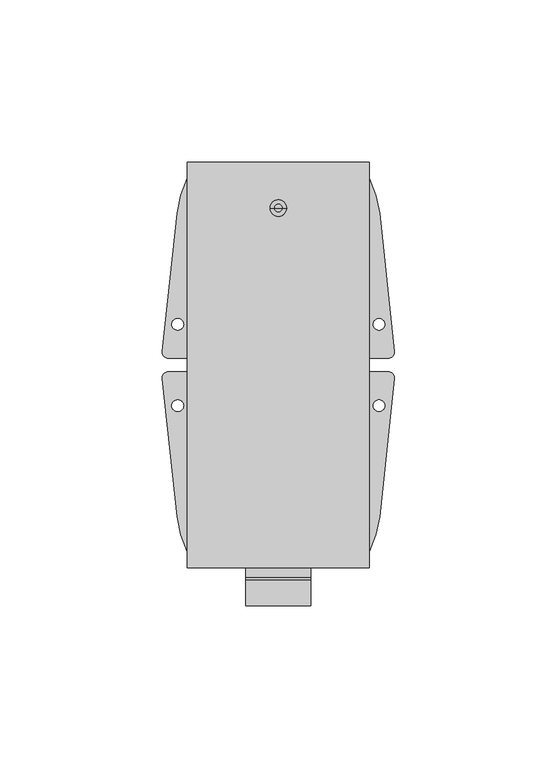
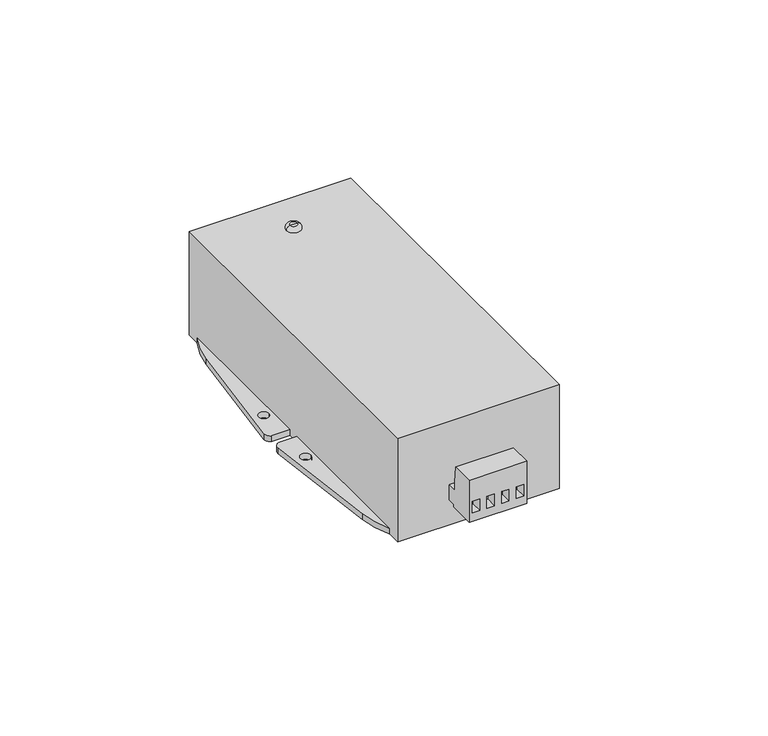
"""IFC4 building model written with IfcOpenShell, lengths in millimetres: proxy geometry, A KIT HPOE 60W-MT-20 : A KIT HPOE 60W-MT-20."""

from ifc_helpers import new_model, si_unit, point, frame, frame_2d, origin, place, context, project, spatial, polyline, circle_curve, ellipse_curve, trimmed, segment, composite_curve, outline, extrude, faceted_brep, source, transform, mapped, element, save
from ifc_brep_helpers import plane_surface, revolved_surface, advanced_brep


def electrical_equipment_0b683ebe(model_context):
    return source(origin(), model_context, "Body", "SolidModel", [
        faceted_brep([(9.9958258, -59.123132, -11.75), (9.9958258, -59.123132, -10.7582097), (9.9958258, -50.3233605, -10.7582097), (9.9958258, -50.3233605, -5.25), (9.9958258, -59.7233605, -5.25), (9.9958258, -59.7233605, -2.25), (9.9958258, -60.3214939, 3.6814903), (9.9958258, -68.3233605, 3.6814903), (9.9958258, -68.3233605, -11.75), (-10.0041742, -59.123132, -11.75), (-10.0041742, -68.3233605, -11.75), (-10.0041742, -68.3233605, 3.6814903), (-10.0041742, -60.3214939, 3.6814903), (-10.0041742, -59.7233605, -2.25), (-10.0041742, -59.7233605, -5.25), (-10.0041742, -50.3233605, -5.25), (-10.0041742, -50.3233605, -10.7582097), (-10.0041742, -59.123132, -10.7582097), (6.3458258, -68.3233605, -8.75), (6.3458258, -68.3233605, -4.45), (8.8858258, -68.3233605, -4.45), (8.8858258, -68.3233605, -8.75), (1.2658258, -68.3233605, -8.75), (1.2658258, -68.3233605, -4.45), (3.8058258, -68.3233605, -4.45), (3.8058258, -68.3233605, -8.75), (-3.8141742, -68.3233605, -8.75), (-3.8141742, -68.3233605, -4.45), (-1.2741742, -68.3233605, -4.45), (-1.2741742, -68.3233605, -8.75), (-8.8941742, -68.3233605, -8.75), (-8.8941742, -68.3233605, -4.45), (-6.3541742, -68.3233605, -4.45), (-6.3541742, -68.3233605, -8.75), (6.3458258, -64.3233605, -4.45), (6.3458258, -64.3233605, -8.75), (8.8858258, -64.3233605, -8.75), (8.8858258, -64.3233605, -4.45), (1.2658258, -64.3233605, -4.45), (1.2658258, -64.3233605, -8.75), (3.8058258, -64.3233605, -8.75), (3.8058258, -64.3233605, -4.45), (-3.8141742, -64.3233605, -4.45), (-3.8141742, -64.3233605, -8.75), (-1.2741742, -64.3233605, -8.75), (-1.2741742, -64.3233605, -4.45), (-8.8941742, -64.3233605, -4.45), (-8.8941742, -64.3233605, -8.75), (-6.3541742, -64.3233605, -8.75), (-6.3541742, -64.3233605, -4.45)], [[[0, 1, 2, 3, 4, 5, 6, 7, 8]], [[9, 10, 11, 12, 13, 14, 15, 16, 17]], [[1, 0, 9, 17]], [[2, 1, 17, 16]], [[3, 2, 16, 15]], [[4, 3, 15, 14]], [[5, 4, 14, 13]], [[6, 5, 13, 12]], [[7, 6, 12, 11]], [[8, 7, 11, 10], [18, 19, 20, 21], [22, 23, 24, 25], [26, 27, 28, 29], [30, 31, 32, 33]], [[0, 8, 10, 9]], [[34, 35, 36, 37]], [[38, 39, 40, 41]], [[42, 43, 44, 45]], [[46, 47, 48, 49]], [[35, 34, 19, 18]], [[36, 35, 18, 21]], [[37, 36, 21, 20]], [[34, 37, 20, 19]], [[39, 38, 23, 22]], [[40, 39, 22, 25]], [[41, 40, 25, 24]], [[38, 41, 24, 23]], [[43, 42, 27, 26]], [[44, 43, 26, 29]], [[45, 44, 29, 28]], [[42, 45, 28, 27]], [[47, 46, 31, 30]], [[48, 47, 30, 33]], [[49, 48, 33, 32]], [[46, 49, 32, 31]]]),
        advanced_brep(
        [(1.1895939, 54.2227327, 19.65), (-1.2012213, 54.2227327, 19.65), (-0.0058137, 54.2227327, 19.65), (2.4967842, 54.2227327, 18.25), (-2.5084116, 54.2227327, 18.25), (-0.0058137, 54.2227327, 18.25)],
        [
            (0, 1, circle_curve(frame((-0.0058137, 54.2227327, 19.65), z_axis=(0.0, 0.0, 1.0), x_axis=(-1.0, 0.0, 0.0)), 1.1954076)),
            (1, 2),
            (2, 0),
            (1, 0, circle_curve(frame((-0.0058137, 54.2227327, 19.65), z_axis=(0.0, 0.0, 1.0), x_axis=(-1.0, 0.0, 0.0)), 1.1954076)),
            (3, 4, circle_curve(frame((-0.0058137, 54.2227327, 18.25), z_axis=(0.0, 0.0, 1.0), x_axis=(-1.0, 0.0, 0.0)), 2.5025979)),
            (4, 1, circle_curve(frame((-1.3161818, 54.2227327, 18.4470729), z_axis=(0.0, 1.0, 0.0), x_axis=(-1.0, 0.0, 0.0)), 1.2084078)),
            (0, 3, circle_curve(frame((1.3045544, 54.2227327, 18.4470729), z_axis=(0.0, 1.0, 0.0), x_axis=(1.0, 0.0, 0.0)), 1.2084078)),
            (4, 3, circle_curve(frame((-0.0058137, 54.2227327, 18.25), z_axis=(0.0, 0.0, 1.0), x_axis=(-1.0, 0.0, 0.0)), 2.5025979)),
            (5, 4),
            (3, 5),
        ],
        [
            plane_surface(frame((-0.0058137, 54.2227327, 19.65), z_axis=(0.0, 0.0, 1.0), x_axis=(-1.0, 0.0, 0.0))),
            revolved_surface(trimmed(ellipse_curve(frame((-1.3161818, 54.2227327, 18.4470729), z_axis=(0.0, -1.0, 0.0), x_axis=(-1.0, 0.0, 0.0)), 1.2084078, 1.2084078), [point((-1.2012213, 54.2227327, 19.65))], [point((-2.5084116, 54.2227327, 18.25))], True, "CARTESIAN"), (-0.0058137, 54.2227327, 19.65), (0.0, 0.0, -1.0)),
            plane_surface(frame((-0.0058137, 54.2227327, 18.25), z_axis=(0.0, 0.0, -1.0), x_axis=(-1.0, 0.0, 0.0))),
        ],
        [
            (0, [[1, 2, 3]]),
            (0, [[4, -3, -2]]),
            (1, [[5, 6, -1, 7]]),
            (1, [[8, -7, -4, -6]]),
            (2, [[9, -5, 10]]),
            (2, [[-10, -8, -9]]),
        ],
    ),
        extrude(outline(composite_curve([segment(polyline([(-28.0058137, 63.35), (-28.0058137, 7.95), (-34.200573, 7.95)]), True, "CONTINUOUS"), segment(trimmed(circle_curve(frame_2d((-33.8246385, 9.8748697)), 1.9612368), [point((-34.200573, 7.95))], [point((-35.7744733, 10.0860431))], False, "CARTESIAN"), True, "CONTINUOUS"), segment(polyline([(-35.7744733, 10.0860431), (-31.1703717, 52.5972478)]), True, "CONTINUOUS"), segment(trimmed(circle_curve(frame_2d((0.2386553, 49.1955481)), 31.5926975), [point((-31.1703717, 52.5972478))], [point((-28.0058137, 63.35))], False, "CARTESIAN"), True, "CONTINUOUS")], self_intersect=False), holes=[composite_curve([segment(trimmed(circle_curve(frame_2d((-31.0217888, 18.3643761)), 1.8), [point((-32.8217888, 18.3643761))], [point((-29.2217888, 18.3643761))], True, "CARTESIAN"), True, "CONTINUOUS"), segment(trimmed(circle_curve(frame_2d((-31.0217888, 18.3643761)), 1.8), [point((-29.2217888, 18.3643761))], [point((-32.8217888, 18.3643761))], True, "CARTESIAN"), True, "CONTINUOUS")], self_intersect=False)]), frame((0.0, 0.0, -19.85), z_axis=(0.0, 0.0, 1.0), x_axis=(1.0, 0.0, 0.0)), (0.0, 0.0, 1.0), 2.1),
        extrude(outline(composite_curve([segment(trimmed(circle_curve(frame_2d((-0.2386553, 49.1955481)), 31.5926975), [point((28.0058137, 63.35))], [point((31.1703717, 52.5972478))], False, "CARTESIAN"), True, "CONTINUOUS"), segment(polyline([(31.1703717, 52.5972478), (35.7744733, 10.0860431)]), True, "CONTINUOUS"), segment(trimmed(circle_curve(frame_2d((33.8246385, 9.8748697)), 1.9612368), [point((35.7744733, 10.0860431))], [point((34.200573, 7.95))], False, "CARTESIAN"), True, "CONTINUOUS"), segment(polyline([(34.200573, 7.95), (28.0058137, 7.95), (28.0058137, 63.35)]), True, "CONTINUOUS")], self_intersect=False), holes=[composite_curve([segment(trimmed(circle_curve(frame_2d((31.0217888, 18.3643761)), 1.8), [point((32.8217888, 18.3643761))], [point((29.2217888, 18.3643761))], True, "CARTESIAN"), True, "CONTINUOUS"), segment(trimmed(circle_curve(frame_2d((31.0217888, 18.3643761)), 1.8), [point((29.2217888, 18.3643761))], [point((32.8217888, 18.3643761))], True, "CARTESIAN"), True, "CONTINUOUS")], self_intersect=False)]), frame((0.0, 0.0, -19.85), z_axis=(0.0, 0.0, 1.0), x_axis=(1.0, 0.0, 0.0)), (0.0, 0.0, 1.0), 2.1),
        extrude(outline(composite_curve([segment(trimmed(circle_curve(frame_2d((0.2386553, -37.4955481)), 31.5926975), [point((-28.0058137, -51.65))], [point((-31.1703717, -40.8972478))], False, "CARTESIAN"), True, "CONTINUOUS"), segment(polyline([(-31.1703717, -40.8972478), (-35.7744733, 1.6139569)]), True, "CONTINUOUS"), segment(trimmed(circle_curve(frame_2d((-33.8246385, 1.8251303)), 1.9612368), [point((-35.7744733, 1.6139569))], [point((-34.200573, 3.75))], False, "CARTESIAN"), True, "CONTINUOUS"), segment(polyline([(-34.200573, 3.75), (-28.0058137, 3.75), (-28.0058137, -51.65)]), True, "CONTINUOUS")], self_intersect=False), holes=[composite_curve([segment(trimmed(circle_curve(frame_2d((-31.0217888, -6.6643761)), 1.8), [point((-32.8217888, -6.6643761))], [point((-29.2217888, -6.6643761))], True, "CARTESIAN"), True, "CONTINUOUS"), segment(trimmed(circle_curve(frame_2d((-31.0217888, -6.6643761)), 1.8), [point((-29.2217888, -6.6643761))], [point((-32.8217888, -6.6643761))], True, "CARTESIAN"), True, "CONTINUOUS")], self_intersect=False)]), frame((0.0, 0.0, -19.85), z_axis=(0.0, 0.0, 1.0), x_axis=(1.0, 0.0, 0.0)), (0.0, 0.0, 1.0), 2.1),
        extrude(outline(composite_curve([segment(polyline([(28.0058137, -51.65), (28.0058137, 3.75), (34.200573, 3.75)]), True, "CONTINUOUS"), segment(trimmed(circle_curve(frame_2d((33.8246385, 1.8251303)), 1.9612368), [point((34.200573, 3.75))], [point((35.7744733, 1.6139569))], False, "CARTESIAN"), True, "CONTINUOUS"), segment(polyline([(35.7744733, 1.6139569), (31.1703717, -40.8972478)]), True, "CONTINUOUS"), segment(trimmed(circle_curve(frame_2d((-0.2386553, -37.4955481)), 31.5926975), [point((31.1703717, -40.8972478))], [point((28.0058137, -51.65))], False, "CARTESIAN"), True, "CONTINUOUS")], self_intersect=False), holes=[composite_curve([segment(trimmed(circle_curve(frame_2d((31.0217888, -6.6643761)), 1.8), [point((32.8217888, -6.6643761))], [point((29.2217888, -6.6643761))], True, "CARTESIAN"), True, "CONTINUOUS"), segment(trimmed(circle_curve(frame_2d((31.0217888, -6.6643761)), 1.8), [point((29.2217888, -6.6643761))], [point((32.8217888, -6.6643761))], True, "CARTESIAN"), True, "CONTINUOUS")], self_intersect=False)]), frame((0.0, 0.0, -19.85), z_axis=(0.0, 0.0, 1.0), x_axis=(1.0, 0.0, 0.0)), (0.0, 0.0, 1.0), 2.1),
        extrude(outline(polyline([(27.9941863, 68.3233605), (27.9941863, -56.6233605), (-28.0058137, -56.6233605), (-28.0058137, 68.3233605), (27.9941863, 68.3233605)])), frame((0.0, 0.0, -19.75), z_axis=(0.0, 0.0, 1.0), x_axis=(1.0, 0.0, 0.0)), (0.0, 0.0, 1.0), 38.0),
    ])


if __name__ == "__main__":
    model = new_model("IFC4")
    model_context = context("Model", 3, world=origin())
    ifc_project = project(units=[si_unit("LENGTHUNIT", "METRE", prefix="MILLI")], contexts=[model_context])
    site = spatial("IfcSite", under=ifc_project)
    building = spatial("IfcBuilding", under=site)
    placement = place(None, origin())
    electrical_equipment_shape = electrical_equipment_0b683ebe(model_context)
    element("IfcBuildingElementProxy", 1, Name="A KIT HPOE 60W-MT-20 : A KIT HPOE 60W-MT-20", ObjectType="A KIT HPOE 60W-MT-20 : A KIT HPOE 60W-MT-20", at=placement, inside=building, context=model_context, shape_type="MappedRepresentation", body=[
        mapped(electrical_equipment_shape, transform((0.0, 0.0, 0.0), x_axis=(1.0, 0.0, 0.0), y_axis=(0.0, 1.0, 0.0), z_axis=(0.0, 0.0, 1.0))),
    ])
    save(model, "model.ifc")
